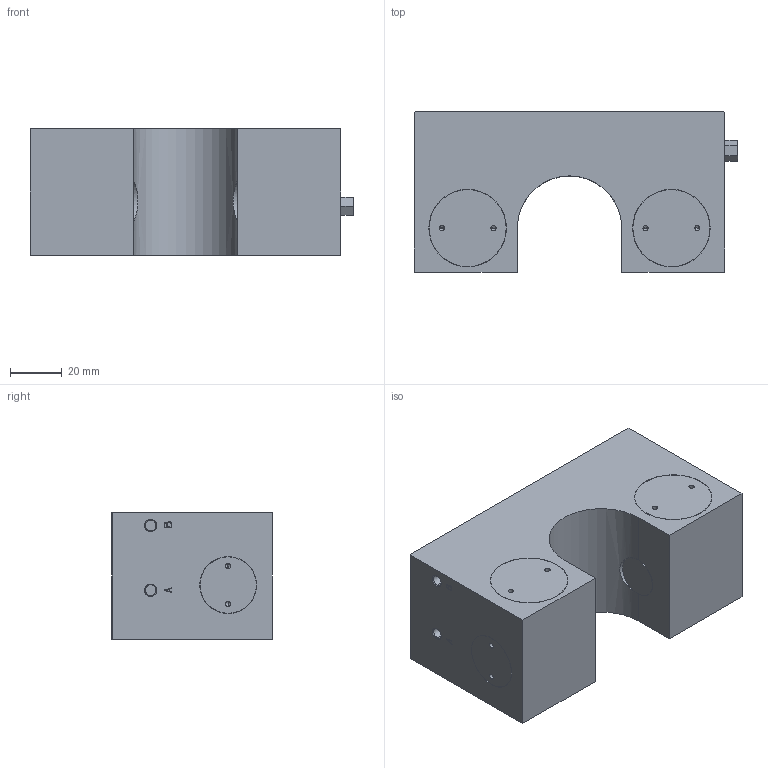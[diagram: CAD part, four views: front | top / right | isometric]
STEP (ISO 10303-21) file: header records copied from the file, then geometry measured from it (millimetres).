
FILE_DESCRIPTION( ( '' ), '1' );
FILE_NAME( 'E:/04 嬴檜蠱滌/0404 ZIMMER/040414 ZIMMER CAD download/MKR/MKR4000A.stp', '2020-04-16T10:10:17', ( '' ), ( '' ), ' ', ' ', ' ' );
FILE_SCHEMA( ( 'automotive_design' ) );
Length unit declared in the file: millimetre
Products named in the file (1): 1
Bounding box: 125 x 62 x 49 mm (x, y, z)
Volume: 295900.1 mm3; surface area: 37493.5 mm2
Topology: 1 solids, 2 shells, 184 faces, 426 edges, 264 vertices
Faces by surface type: plane 87, cylinder 65, cone 32
Entity records: 10132 total; most frequent: CARTESIAN_POINT 1049, DIRECTION 914, STYLED_ITEM 859, PRESENTATION_STYLE_ASSIGNMENT 859, COLOUR_RGB 859, ORIENTED_EDGE 820, EDGE_CURVE 410, CURVE_STYLE 410
